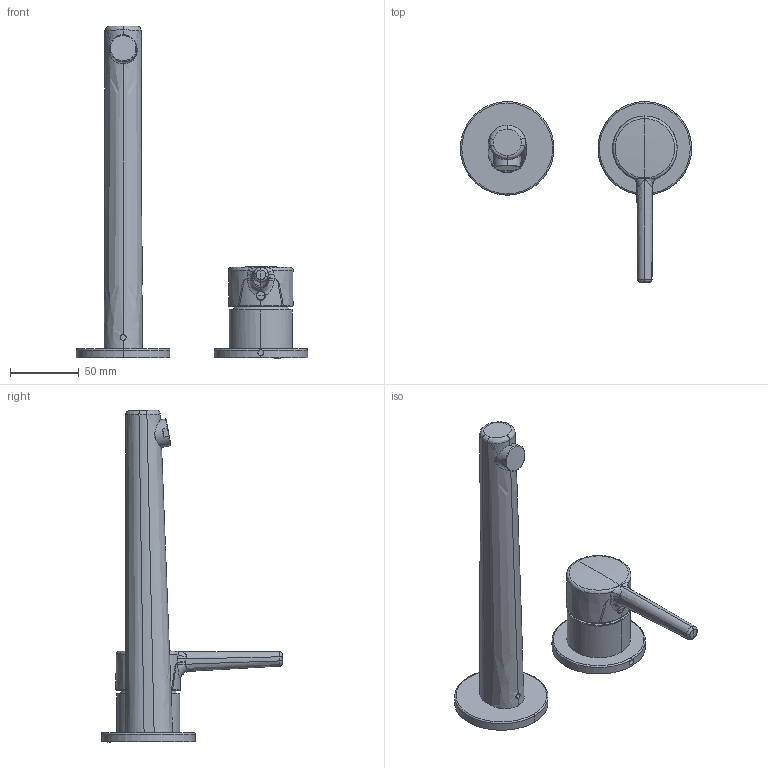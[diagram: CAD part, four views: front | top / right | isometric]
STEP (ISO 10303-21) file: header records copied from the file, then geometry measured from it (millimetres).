
FILE_DESCRIPTION((''),'2;1');
FILE_NAME('509518_A225','2020-05-01T16:08:03',('DB991'),(''),'CREO PARAMETRIC BY PTC INC, 2018500','CREO PARAMETRIC BY PTC INC, 2018500','');
FILE_SCHEMA(('CONFIG_CONTROL_DESIGN'));
Products named in the file (1): 509518_A225
Bounding box: 168 x 131.5 x 241.17 mm (x, y, z)
Volume: 310469.6 mm3; surface area: 51444.3 mm2
Topology: 2 solids, 2 shells, 144 faces, 343 edges, 206 vertices
Faces by surface type: bspline 40, cylinder 38, torus 32, plane 20, sphere 8, cone 6
Entity records: 29531 total; most frequent: CARTESIAN_POINT 26562, ORIENTED_EDGE 672, DIRECTION 516, EDGE_CURVE 336, AXIS2_PLACEMENT_3D 231, VERTEX_POINT 206, B_SPLINE_CURVE_WITH_KNOTS 155, EDGE_LOOP 154
